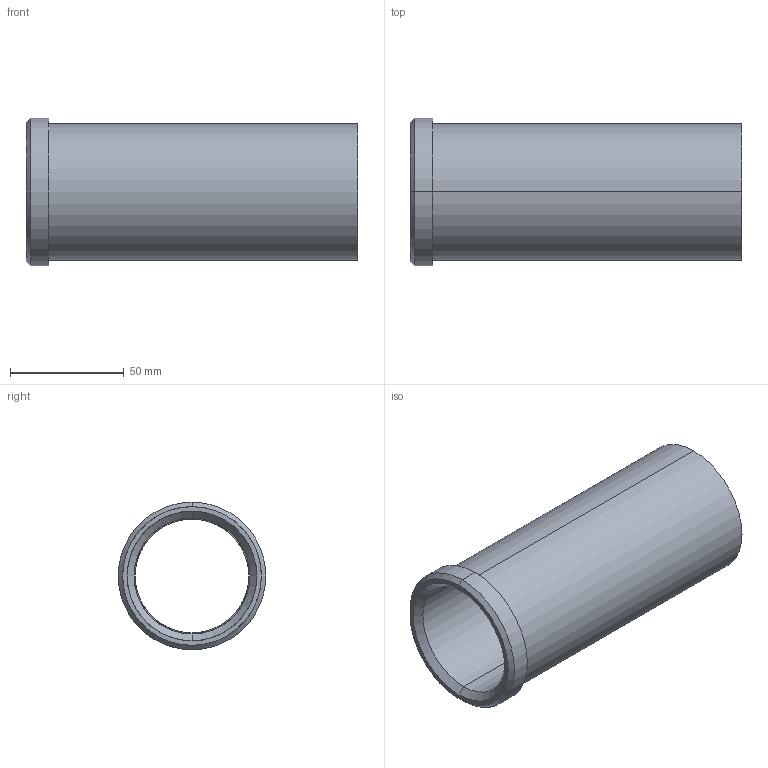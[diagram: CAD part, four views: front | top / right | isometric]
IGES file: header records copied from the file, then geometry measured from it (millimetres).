
Start section: START RECORD GO HERE.
Global section: file name: 353-50X146.igs; native system: DASSAULT SYSTEMES CATIA V5 R20 - www.3ds.com; preprocessor: CATIA Version 5 Release 20 ; author: Utente; organization: NB04-ASUS; date: 20210514.151707; units: millimetre
Bounding box: 146 x 65 x 65 mm (x, y, z)
Surface area: 52817.8 mm2 (no closed solid volume)
Topology: 0 solids, 0 shells, 18 faces, 116 edges, 116 vertices
Faces by surface type: revolution 14, plane 4
